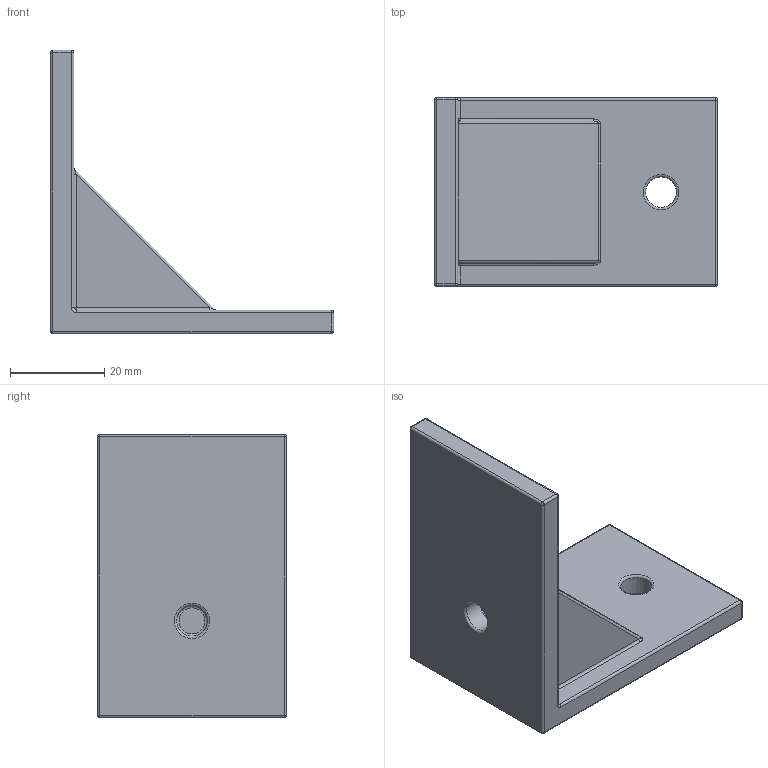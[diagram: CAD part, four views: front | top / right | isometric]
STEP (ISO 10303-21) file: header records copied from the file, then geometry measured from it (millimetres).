
FILE_DESCRIPTION(('Open CASCADE Model'),'2;1');
FILE_NAME('Open CASCADE Shape Model','2026-10-30T15:22:17',('Author'),( 'Open CASCADE'),'Open CASCADE STEP processor 7.9','Open CASCADE 7.9' ,'Unknown');
FILE_SCHEMA(('AUTOMOTIVE_DESIGN { 1 0 10303 214 1 1 1 1 }'));
Length unit declared in the file: millimetre
Products named in the file (2): b0b0a174-d475-11f1-8681-2fe29c81977e; angle_bracket
Assembly tree (1 placements, depth 2):
  b0b0a174-d475-11f1-8681-2fe29c81977e
    angle_bracket
Bounding box: 60 x 40 x 60 mm (x, y, z)
Volume: 35966.2 mm3; surface area: 11143.9 mm2
Topology: 1 solids, 1 shells, 67 faces, 147 edges, 72 vertices
Faces by surface type: cylinder 30, plane 13, sphere 12, torus 8, bspline 4
Full cylindrical faces by diameter (mm): 6.5 x3
Entity records: 3833 total; most frequent: CARTESIAN_POINT 1150, DIRECTION 483, ORIENTED_EDGE 270, PCURVE 270, DEFINITIONAL_REPRESENTATION 270, LINE 227, VECTOR 227, EDGE_CURVE 135
